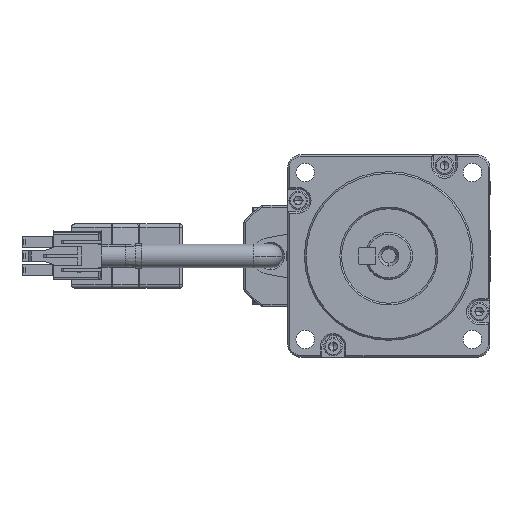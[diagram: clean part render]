
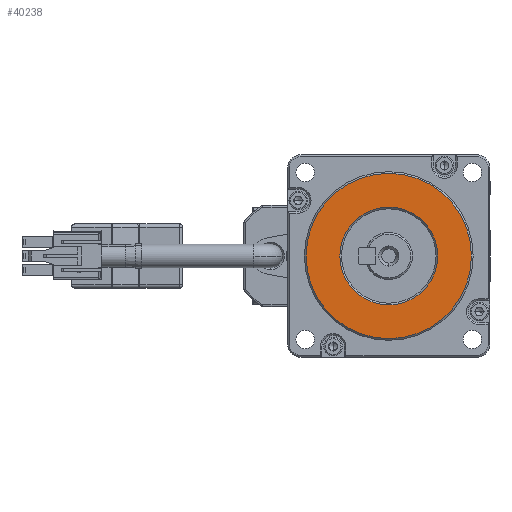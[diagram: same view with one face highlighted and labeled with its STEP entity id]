
A CAD part, left-side view. The second image highlights one B-rep face of the part: STEP entity #40238.
In plain terms, the highlighted planar face has unit normal (-1, 0, 0).
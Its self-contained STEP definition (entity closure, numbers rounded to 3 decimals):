
#240 = CIRCLE ( 'NONE', #15342, 14.5 ) ;
#1842 = DIRECTION ( 'NONE',  ( 1., 0., 0. ) ) ;
#2221 = EDGE_LOOP ( 'NONE', ( #44516, #35442 ) ) ;
#2566 = DIRECTION ( 'NONE',  ( 0., 0., -1. ) ) ;
#3017 = DIRECTION ( 'NONE',  ( 1., 0., 0. ) ) ;
#3216 = CARTESIAN_POINT ( 'NONE',  ( -5.4, 0., -14.5 ) ) ;
#4300 = AXIS2_PLACEMENT_3D ( 'NONE', #24856, #4310, #28308 ) ;
#4310 = DIRECTION ( 'NONE',  ( -1., 0., 0. ) ) ;
#8399 = EDGE_CURVE ( 'NONE', #18592, #39263, #20281, .T. ) ;
#8946 = DIRECTION ( 'NONE',  ( 1., 0., 0. ) ) ;
#8959 = CARTESIAN_POINT ( 'NONE',  ( -5.4, 0., 14.5 ) ) ;
#10193 = VERTEX_POINT ( 'NONE', #25775 ) ;
#13704 = EDGE_CURVE ( 'NONE', #10193, #35414, #15515, .T. ) ;
#14763 = AXIS2_PLACEMENT_3D ( 'NONE', #43767, #23067, #2566 ) ;
#15342 = AXIS2_PLACEMENT_3D ( 'NONE', #22339, #1842, #25796 ) ;
#15515 = CIRCLE ( 'NONE', #14763, 24.5 ) ;
#17013 = EDGE_CURVE ( 'NONE', #35414, #10193, #39558, .T. ) ;
#18592 = VERTEX_POINT ( 'NONE', #8959 ) ;
#19109 = CARTESIAN_POINT ( 'NONE',  ( -5.4, 0., 0. ) ) ;
#20281 = CIRCLE ( 'NONE', #30691, 14.5 ) ;
#20994 = CARTESIAN_POINT ( 'NONE',  ( -5.4, 0., 24.5 ) ) ;
#22339 = CARTESIAN_POINT ( 'NONE',  ( -5.4, 0., 0. ) ) ;
#23067 = DIRECTION ( 'NONE',  ( -1., 0., 0. ) ) ;
#23512 = CARTESIAN_POINT ( 'NONE',  ( -5.4, 0., 0. ) ) ;
#24856 = CARTESIAN_POINT ( 'NONE',  ( -5.4, 0., 0. ) ) ;
#25775 = CARTESIAN_POINT ( 'NONE',  ( -5.4, 0., -24.5 ) ) ;
#25796 = DIRECTION ( 'NONE',  ( 0., 0., -1. ) ) ;
#26999 = DIRECTION ( 'NONE',  ( 0., 0., -1. ) ) ;
#28308 = DIRECTION ( 'NONE',  ( 0., 0., -1. ) ) ;
#29136 = EDGE_LOOP ( 'NONE', ( #31419, #29662 ) ) ;
#29541 = PLANE ( 'NONE',  #30876 ) ;
#29662 = ORIENTED_EDGE ( 'NONE', *, *, #42735, .T. ) ;
#30033 = FACE_OUTER_BOUND ( 'NONE', #2221, .T. ) ;
#30691 = AXIS2_PLACEMENT_3D ( 'NONE', #23512, #3017, #26999 ) ;
#30876 = AXIS2_PLACEMENT_3D ( 'NONE', #19109, #8946, #33033 ) ;
#31419 = ORIENTED_EDGE ( 'NONE', *, *, #8399, .T. ) ;
#33033 = DIRECTION ( 'NONE',  ( 0., 0., -1. ) ) ;
#35414 = VERTEX_POINT ( 'NONE', #20994 ) ;
#35442 = ORIENTED_EDGE ( 'NONE', *, *, #17013, .T. ) ;
#39244 = FACE_BOUND ( 'NONE', #29136, .T. ) ;
#39263 = VERTEX_POINT ( 'NONE', #3216 ) ;
#39558 = CIRCLE ( 'NONE', #4300, 24.5 ) ;
#40238 = ADVANCED_FACE ( 'NONE', ( #39244, #30033 ), #29541, .F. ) ;
#42735 = EDGE_CURVE ( 'NONE', #39263, #18592, #240, .T. ) ;
#43767 = CARTESIAN_POINT ( 'NONE',  ( -5.4, 0., 0. ) ) ;
#44516 = ORIENTED_EDGE ( 'NONE', *, *, #13704, .T. ) ;
